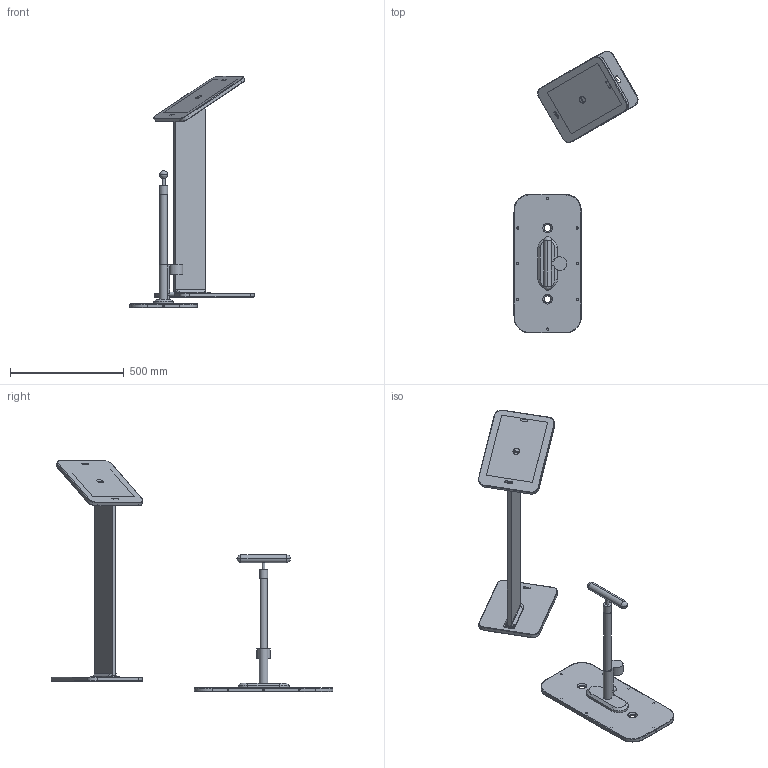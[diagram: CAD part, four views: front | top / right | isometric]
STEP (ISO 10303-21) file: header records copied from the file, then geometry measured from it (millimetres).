
FILE_DESCRIPTION(/* description */ (''),/* implementation_level */ '2;1');
FILE_NAME(/* name */ '041.stp',/* time_stamp */ '2026-09-03T15:12:22+02:00',/* author */ ('clehmann'),/* organization */ (''),/* preprocessor_version */ 'ST-DEVELOPER v20',/* originating_system */ 'Autodesk Inventor 2025',/* authorisation */ '');
FILE_SCHEMA (('AUTOMOTIVE_DESIGN { 1 0 10303 214 3 1 1 }'));
Length unit declared in the file: millimetre
Products named in the file (8): 041_Bim Bam Bum; 260326_Fahradpumpe; 7x15_1238x2494_006; 250818_Textständer; 250908_Abdeckplatte Druckknopf_Holz_Goba; 250818_Ständer Textständer; 250819_Textständer verbinder_002; 260211_A4 Papier
Assembly tree (9 placements, depth 3):
  041_Bim Bam Bum
    260326_Fahradpumpe
    7x15_1238x2494_006
    250818_Textständer
      250908_Abdeckplatte Druckknopf_Holz_Goba  x2
      250819_Textständer verbinder_002  x2
      250818_Ständer Textständer
    260211_A4 Papier
Bounding box: 546.1 x 1241.02 x 1018.83 mm (x, y, z)
Volume: 10199482.8 mm3; surface area: 1439207.8 mm2
Topology: 8 solids, 8 shells, 303 faces, 721 edges, 457 vertices
Faces by surface type: plane 148, cylinder 104, cone 18, torus 17, bspline 16
Full cylindrical faces by diameter (mm): 3 x4, 4.5 x4, 7 x8, 10 x8, 13 x1, 17 x1, 20 x1, 30 x7, 32 x1, 36 x1
Entity records: 7723 total; most frequent: CARTESIAN_POINT 2364, DIRECTION 1079, ORIENTED_EDGE 1008, EDGE_CURVE 504, AXIS2_PLACEMENT_3D 395, VERTEX_POINT 318, LINE 289, VECTOR 289
